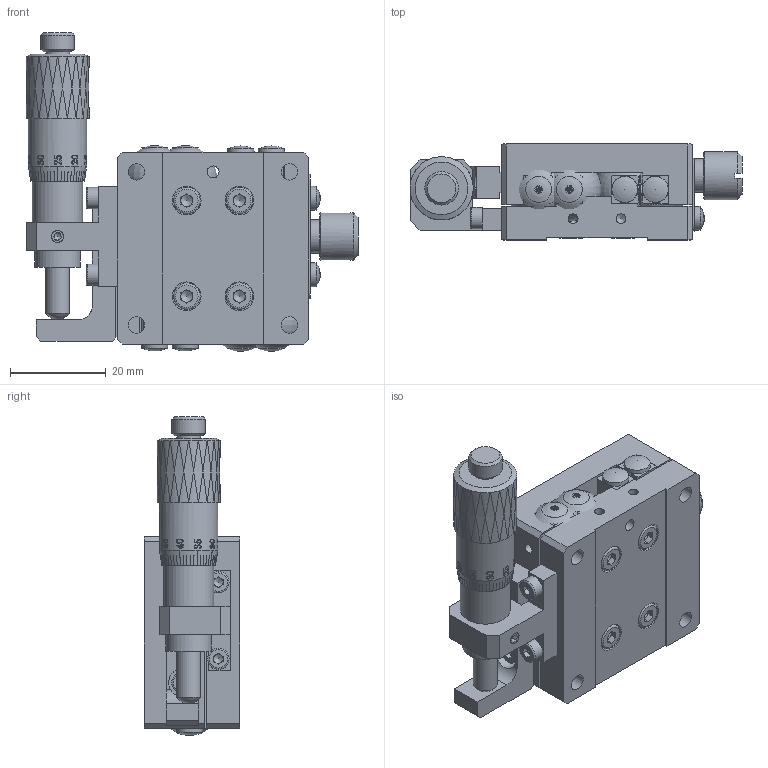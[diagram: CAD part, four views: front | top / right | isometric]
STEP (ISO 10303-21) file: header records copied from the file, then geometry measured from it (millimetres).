
FILE_DESCRIPTION (( 'STEP AP203' ), '1' );
FILE_NAME ('BPEA40.STEP', '2024-07-26T05:41:59', ( 'Windows User' ), ( 'P R C' ), 'SwSTEP 2.0', 'SolidWorks 2024', '' );
FILE_SCHEMA (( 'CONFIG_CONTROL_DESIGN' ));
Length unit declared in the file: millimetre
Products named in the file (1): BPEA40
Bounding box: 69.4 x 20 x 66.6 mm (x, y, z)
Volume: 30229.6 mm3; surface area: 29466.7 mm2
Topology: 29 solids, 29 shells, 1439 faces, 3571 edges, 2314 vertices
Faces by surface type: plane 591, bspline 395, cylinder 260, cone 170, torus 20, sphere 3
Full cylindrical faces by diameter (mm): 2 x10, 2.05 x15, 2.5 x20, 2.55 x8, 2.95 x9, 3 x11, 3.2 x4, 3.4 x12, 4.4 x8, 4.5 x4, 5 x5, 5.5 x8, 5.8 x2, 6 x12, 7 x2, 8.5 x1, 9.5 x2, 10 x1, 10.5 x1, 12.2 x1
Entity records: 72472 total; most frequent: CARTESIAN_POINT 43477, ORIENTED_EDGE 6480, DIRECTION 4395, EDGE_CURVE 3240, VERTEX_POINT 2215, EDGE_LOOP 1905, AXIS2_PLACEMENT_3D 1633, FACE_OUTER_BOUND 1572
